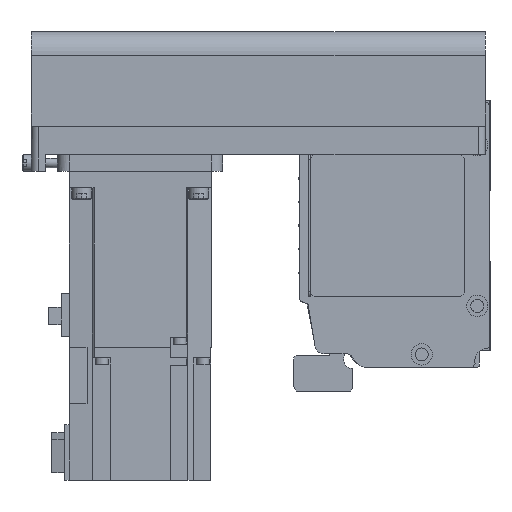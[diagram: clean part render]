
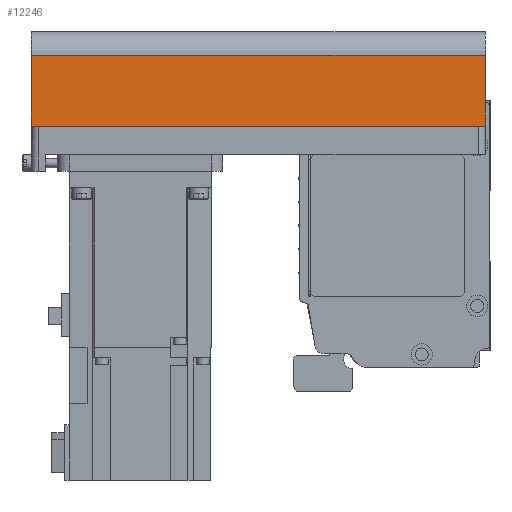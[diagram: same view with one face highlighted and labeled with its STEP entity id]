
A CAD part, left-side view. The second image highlights one B-rep face of the part: STEP entity #12246.
In plain terms, the highlighted planar face has unit normal (-1, 0, 0) as drawn and (0, 1, 0) by its records, which use the part's own axes.
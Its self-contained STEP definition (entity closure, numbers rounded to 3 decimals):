
#2193=ORIENTED_EDGE('',*,*,#4971,.F.);
#2194=ORIENTED_EDGE('',*,*,#5003,.F.);
#2195=ORIENTED_EDGE('',*,*,#4958,.T.);
#2196=ORIENTED_EDGE('',*,*,#4943,.T.);
#4943=EDGE_CURVE('',#6491,#6492,#7725,.T.);
#4958=EDGE_CURVE('',#6503,#6491,#7738,.T.);
#4971=EDGE_CURVE('',#6513,#6492,#7747,.T.);
#5003=EDGE_CURVE('',#6503,#6513,#7759,.T.);
#6491=VERTEX_POINT('',#19073);
#6492=VERTEX_POINT('',#19074);
#6503=VERTEX_POINT('',#19102);
#6513=VERTEX_POINT('',#19129);
#7725=LINE('',#19072,#8953);
#7738=LINE('',#19101,#8966);
#7747=LINE('',#19128,#8975);
#7759=LINE('',#19183,#8987);
#8953=VECTOR('',#15332,1000.);
#8966=VECTOR('',#15353,1000.);
#8975=VECTOR('',#15378,1000.);
#8987=VECTOR('',#15456,1000.);
#10042=EDGE_LOOP('',(#2193,#2194,#2195,#2196));
#10948=FACE_BOUND('',#10042,.T.);
#11687=PLANE('',#13199);
#12246=ADVANCED_FACE('',(#10948),#11687,.T.);
#13199=AXIS2_PLACEMENT_3D('',#19182,#15454,#15455);
#15332=DIRECTION('',(1.,0.,0.));
#15353=DIRECTION('',(0.,0.,1.));
#15378=DIRECTION('',(0.,0.,1.));
#15454=DIRECTION('',(0.,1.,0.));
#15455=DIRECTION('',(0.,0.,1.));
#15456=DIRECTION('',(1.,0.,0.));
#19072=CARTESIAN_POINT('',(-192.,40.,-12.1));
#19073=CARTESIAN_POINT('',(-192.,40.,-12.1));
#19074=CARTESIAN_POINT('',(0.,40.,-12.1));
#19101=CARTESIAN_POINT('',(-192.,40.,-42.));
#19102=CARTESIAN_POINT('',(-192.,40.,-42.));
#19128=CARTESIAN_POINT('',(0.,40.,-42.));
#19129=CARTESIAN_POINT('',(0.,40.,-42.));
#19182=CARTESIAN_POINT('',(-192.,40.,-42.));
#19183=CARTESIAN_POINT('',(-192.,40.,-42.));
